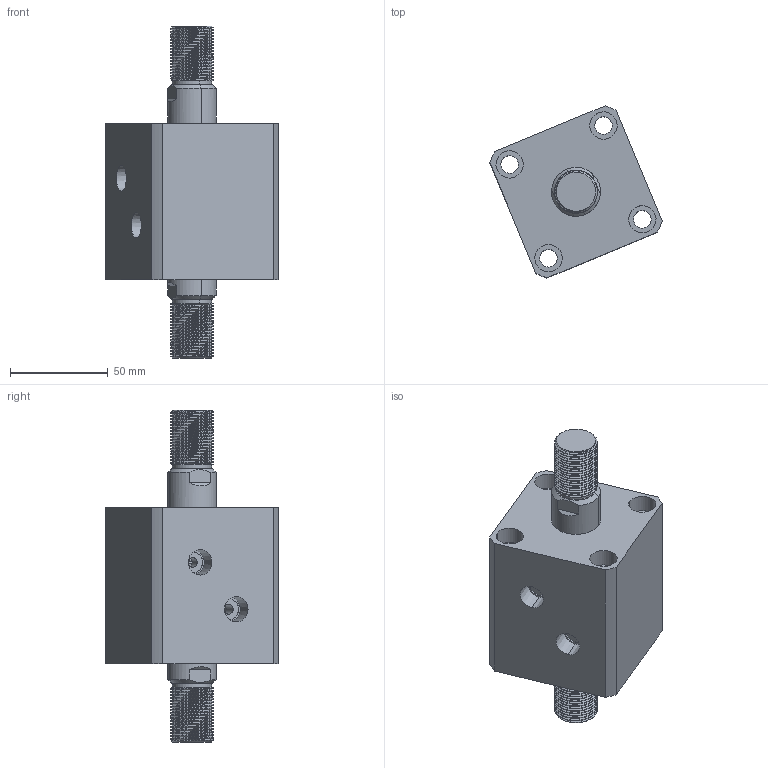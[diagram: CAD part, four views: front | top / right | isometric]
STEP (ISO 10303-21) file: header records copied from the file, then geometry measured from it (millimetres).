
FILE_DESCRIPTION (( 'STEP AP214' ), '1' );
FILE_NAME ('chtb-sw40x10w_asm.STEP', '2018-06-08T09:59:58', ( 'Windows' ), ( 'Microsoft' ), 'SwSTEP 2.0', 'SolidWorks 2015', '' );
FILE_SCHEMA (( 'AUTOMOTIVE_DESIGN' ));
Length unit declared in the file: millimetre
Products named in the file (4): CHTB-SW40X10NHSG; CHTB-SW40X10NBT; CHTB-SD40QG; chtb-sw40x10w_asm
Assembly tree (3 placements, depth 2):
  chtb-sw40x10w_asm
    CHTB-SD40QG
    CHTB-SW40X10NBT
    CHTB-SW40X10NHSG
Bounding box: 88.11 x 88.11 x 170 mm (x, y, z)
Volume: 385295.3 mm3; surface area: 79345.3 mm2
Topology: 3 solids, 3 shells, 254 faces, 680 edges, 452 vertices
Faces by surface type: cylinder 160, plane 46, bspline 18, cone 18, torus 12
Entity records: 17389 total; most frequent: CARTESIAN_POINT 11402, ORIENTED_EDGE 1348, DIRECTION 1094, EDGE_CURVE 674, VERTEX_POINT 452, AXIS2_PLACEMENT_3D 443, EDGE_LOOP 296, FACE_OUTER_BOUND 254
